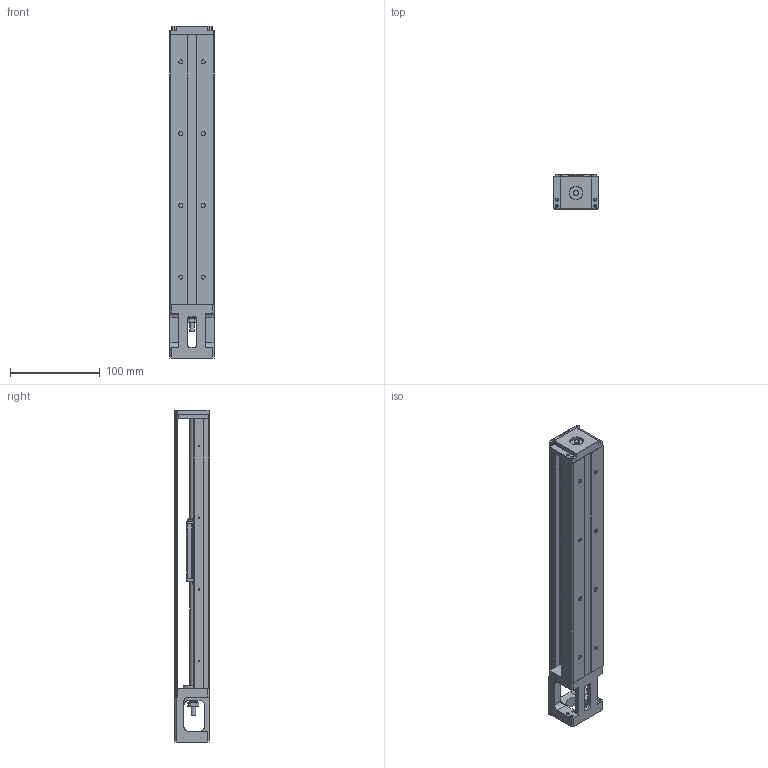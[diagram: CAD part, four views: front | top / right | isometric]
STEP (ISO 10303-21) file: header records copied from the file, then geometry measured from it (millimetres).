
FILE_DESCRIPTION(/* description */ (''),/* implementation_level */ '2;1');
FILE_NAME(/* name */ '26-300C.stp',/* time_stamp */ '2016-12-16T14:57:17+08:00',/* author */ (''),/* organization */ (''),/* preprocessor_version */ 'ST-DEVELOPER v11',/* originating_system */ 'SIEMENS UGS NX 6.0',/* authorisation */ '');
FILE_SCHEMA (('AUTOMOTIVE_DESIGN { 1 0 10303 214 1 1 1 1 }'));
Length unit declared in the file: millimetre
Products named in the file (1): model4
Bounding box: 50 x 39 x 370 mm (x, y, z)
Volume: 288179.9 mm3; surface area: 126228.6 mm2
Topology: 6 solids, 11 shells, 715 faces, 1864 edges, 1203 vertices
Faces by surface type: plane 361, cylinder 258, cone 65, bspline 20, torus 6, extrusion 4, sphere 1
Full cylindrical faces by diameter (mm): 1.6 x8, 2.42 x10, 2.5 x5, 2.8 x6, 3.2 x4, 3.3 x6, 3.5 x6, 4 x4, 4.5 x8, 5 x7, 5.7 x1, 6 x9, 8 x33, 9 x2, 10 x1, 15 x2, 16.9 x1
Entity records: 31042 total; most frequent: CARTESIAN_POINT 11566, DIRECTION 3295, ORIENTED_EDGE 3204, EDGE_CURVE 1602, AXIS2_PLACEMENT_3D 1182, VERTEX_POINT 1121, EDGE_LOOP 953, VECTOR 931
